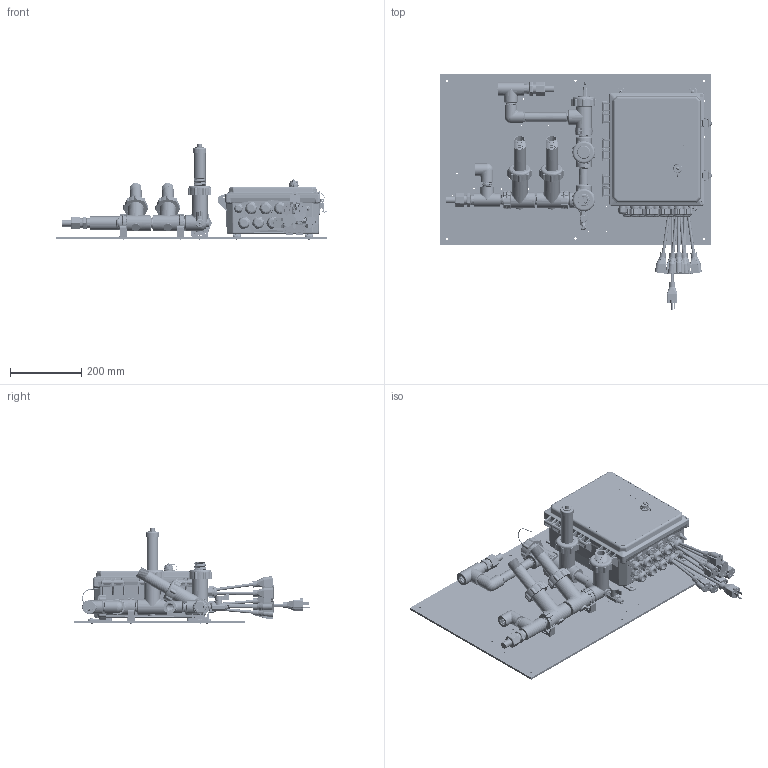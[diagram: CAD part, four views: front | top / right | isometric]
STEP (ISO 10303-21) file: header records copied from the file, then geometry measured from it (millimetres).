
FILE_DESCRIPTION (( 'STEP AP203' ), '1' );
FILE_NAME ('W900-CT-PAFHMR.STEP', '2019-03-19T18:35:03', ( '' ), ( '' ), 'SwSTEP 2.0', 'SolidWorks 2019', '' );
FILE_SCHEMA (( 'CONFIG_CONTROL_DESIGN' ));
Length unit declared in the file: inch
Products named in the file (49): ISA0026; IMC0005; IMS0005; ISA0006; 102903_102903; IMS0023_30075T212; IMS0010; IMS0020; IMS0033; IMS0029; SHELL-104203; 103860_Cord1; IMC0004; IMS0034; IMS0035_91500A537; ISA0025; W900 Shell; IMS0011_4882K14; IMS0032; SHELL-191965-06; SHELL-191965-06-104203; IMC0006; IMC0009_102879-01; IMS0002; IMC0003; W900-CT-PAFHMR; 102906; IMS0037_Cord1; 102907; IMS0031; IMC0002; IMC0010; IMC0001; ISA0059; IMS0030; ISA0060; IMS0027_98273A320; ISA0023; IMS0022; IMS0036_91772A829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
Assembly tree (96 placements, depth 4):
  W900-CT-PAFHMR
    IMR0001
    IMC0001  x5
    IMS0006  x4
    ISA0060
      IMS0020  x2
      IMS0002  x2
      IMC0009_102879-01
      IMC0002
      IMC0004  x3
      IMS0022
      IMS0032
      IMS0011_4882K14  x6
      ISA0023
        IMS0013
        IMS0012
    IMS0023_30075T212  x3
    W900 Shell
      W900 Shell
      IMS0034  x4
      IMS0035_91500A537  x4
      IMS0036_91772A829  x4
      ISA0006
        102903_102903
        102906
        103860_Cord1  x3
        103861
      ISA0006
        102903_102903
        102906
        103860_Cord1  x2
        103861
      ISA0006
        102907
        102903_102903
        102906
        103860_Cord1  x3
        103861
      IMS0037_Cord1
    IMS0027_98273A320  x3
    ISA0026
      IMC0003
      IMS0010
      IMS0006
      ISA0025
        IMC0006
        IMS0029  x2
    IMS0005
    IMS0033
    ISA0059
      IMC0005
      IMS0031
    IMC0010
    IMC0005
    IMS0030  x2
    SHELL-191965-06-104203
      SHELL-191965-06
      SHELL-104203
    SHELL-191965-06-104203
      SHELL-191965-06
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Bounding box: 764.69 x 664.97 x 272.47 mm (x, y, z)
Volume: 5951909.8 mm3; surface area: 2526298.2 mm2
Topology: 137 solids, 140 shells, 18724 faces, 48941 edges, 30633 vertices
Faces by surface type: plane 7463, cylinder 5630, bspline 3560, cone 1370, torus 593, sphere 108
Entity records: 745625 total; most frequent: CARTESIAN_POINT 421627, ORIENTED_EDGE 75816, DIRECTION 53095, EDGE_CURVE 37912, VERTEX_POINT 23885, AXIS2_PLACEMENT_3D 18313, VECTOR 16469, LINE 16469
